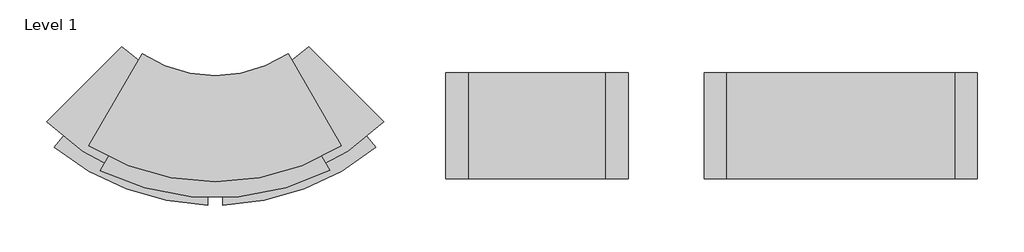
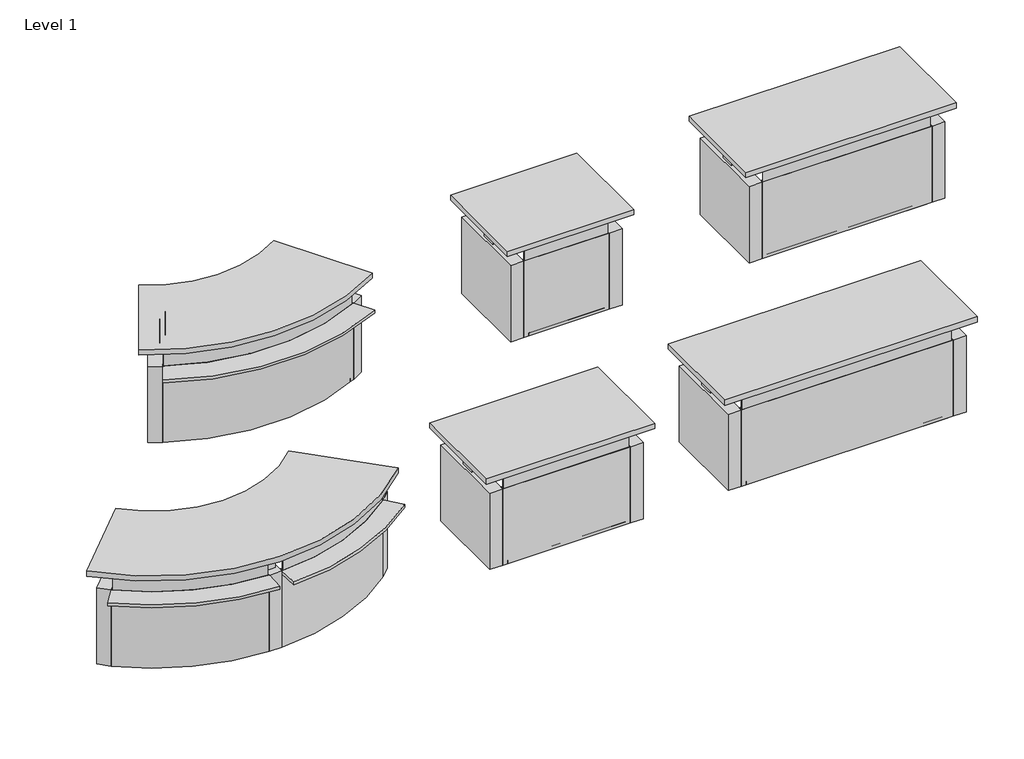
# One storey: 6 furniture elements.
"""IFC4 building model written with IfcOpenShell, lengths in millimetres."""

from ifc_helpers import new_model, si_unit, origin, place, context, project, spatial, transform, mapped, element, save
from components import furniture_ac1112f0, furniture_1e460b96, furniture_1200_2064294d, furniture_1500_e777cc68, furniture_1800_709710ae, furniture_900_de5ceb72

model = new_model("IFC4")

# Units and contexts
model_context = context("Model", 3, world=origin())
ifc_project = project(units=[si_unit("LENGTHUNIT", "METRE", prefix="MILLI")], contexts=[model_context])

# Site, building, storey
site = spatial("IfcSite", under=ifc_project)
building = spatial("IfcBuilding", under=site)
storey = spatial("IfcBuildingStorey", under=building, Name="Level 1", Elevation=0.0)

# Furniture
placement = place(None, origin())
furniture_shape = furniture_ac1112f0(model_context)
element("IfcFurniture", 1, ObjectType="BK Library - Exlibris - 60 - Counter : BK Library - Exlibris - 60 - Counter", at=placement, inside=storey, context=model_context, shape_type="MappedRepresentation", body=[
    mapped(furniture_shape, transform((-2249.7363113, 2197.9118669, 171.3430219), x_axis=(1.0, 0.0, 0.0), y_axis=(0.0, 1.0, 0.0), z_axis=(0.0, 0.0, 1.0))),
])
furniture_2_shape = furniture_1e460b96(model_context)
element("IfcFurniture", 2, ObjectType="BK Library - Exlibris - 90 - Counter : BK Library - Exlibris - 90 - Counter", at=placement, inside=storey, context=model_context, shape_type="MappedRepresentation", body=[
    mapped(furniture_2_shape, transform((-2249.7363113, 2136.4282893, -1493.1438011), x_axis=(1.0, 0.0, 0.0), y_axis=(0.0, 1.0, 0.0), z_axis=(0.0, 0.0, 1.0))),
])
furniture_1200_shape = furniture_1200_2064294d(model_context)
element("IfcFurniture", 3, ObjectType="BK Library - Exlibris - Straight - Counter : 1200", at=placement, inside=storey, context=model_context, shape_type="MappedRepresentation", body=[
    mapped(furniture_1200_shape, transform((-129.7363113, 2197.9118669, -1493.1438011), x_axis=(1.0, 0.0, 0.0), y_axis=(0.0, 1.0, 0.0), z_axis=(0.0, 0.0, 1.0))),
])
furniture_1500_shape = furniture_1500_e777cc68(model_context)
element("IfcFurniture", 4, ObjectType="BK Library - Exlibris - Straight - Counter : 1500", at=placement, inside=storey, context=model_context, shape_type="MappedRepresentation", body=[
    mapped(furniture_1500_shape, transform((1870.2636887, 2197.9118669, 171.3430219), x_axis=(1.0, 0.0, 0.0), y_axis=(0.0, 1.0, 0.0), z_axis=(0.0, 0.0, 1.0))),
])
furniture_1800_shape = furniture_1800_709710ae(model_context)
element("IfcFurniture", 5, ObjectType="BK Library - Exlibris - Straight - Counter : 1800", at=placement, inside=storey, context=model_context, shape_type="MappedRepresentation", body=[
    mapped(furniture_1800_shape, transform((1870.2636887, 2197.9118669, -1493.1438011), x_axis=(1.0, 0.0, 0.0), y_axis=(0.0, 1.0, 0.0), z_axis=(0.0, 0.0, 1.0))),
])
furniture_900_shape = furniture_900_de5ceb72(model_context)
element("IfcFurniture", 6, ObjectType="BK Library - Exlibris - Straight - Counter : 900", at=placement, inside=storey, context=model_context, shape_type="MappedRepresentation", body=[
    mapped(furniture_900_shape, transform((-129.7363113, 2197.9118669, 171.3430219), x_axis=(1.0, 0.0, 0.0), y_axis=(0.0, 1.0, 0.0), z_axis=(0.0, 0.0, 1.0))),
])

save(model, "model.ifc")
